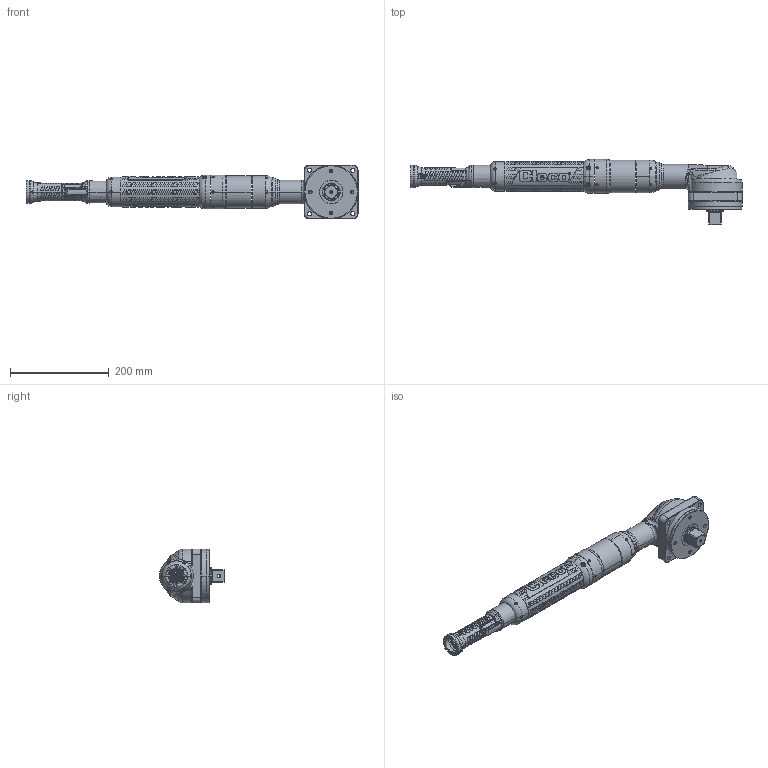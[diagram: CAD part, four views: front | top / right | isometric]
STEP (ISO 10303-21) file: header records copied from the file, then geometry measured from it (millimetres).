
FILE_DESCRIPTION((''),'2;1');
FILE_NAME('70EAN600SA8T_SW0001','2021-05-27T',('E2E42'),(''),'CREO PARAMETRIC BY PTC INC, 2016050','CREO PARAMETRIC BY PTC INC, 2016050','');
FILE_SCHEMA(('CONFIG_CONTROL_DESIGN'));
Products named in the file (1): 70EAN600SA8T_SW0001
Bounding box: 674.04 x 132.36 x 109 mm (x, y, z)
Surface area: 175915.9 mm2 (no closed solid volume)
Topology: 0 solids, 209 shells, 2422 faces, 9749 edges, 7332 vertices
Faces by surface type: bspline 956, cylinder 695, plane 281, torus 166, extrusion 163, cone 153, sphere 8
Entity records: 158197 total; most frequent: CARTESIAN_POINT 91173, ORIENTED_EDGE 13710, DIRECTION 10387, EDGE_CURVE 9733, VERTEX_POINT 7332, B_SPLINE_CURVE_WITH_KNOTS 4858, AXIS2_PLACEMENT_3D 3883, EDGE_LOOP 2656
